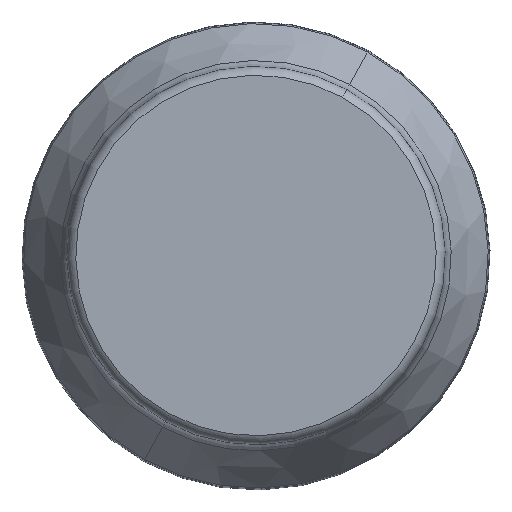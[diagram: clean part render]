
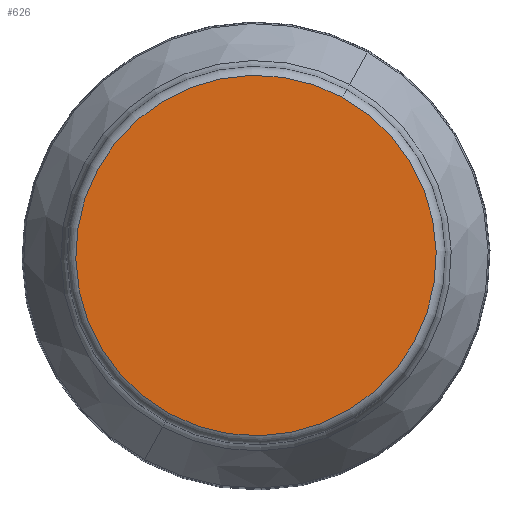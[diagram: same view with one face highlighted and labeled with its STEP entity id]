
A CAD part, top view. The second image highlights one B-rep face of the part: STEP entity #626.
In plain terms, the highlighted planar face has unit normal (0, 0, 1).
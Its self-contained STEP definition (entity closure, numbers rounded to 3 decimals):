
#289=AXIS2_PLACEMENT_3D('Circle Axis2P3D',#287,#288,$) ;
#315=AXIS2_PLACEMENT_3D('Circle Axis2P3D',#313,#314,$) ;
#620=AXIS2_PLACEMENT_3D('Plane Axis2P3D',#617,#618,#619) ;
#284=CARTESIAN_POINT('Vertex',(10.965,20.072,40.)) ;
#287=CARTESIAN_POINT('Axis2P3D Location',(0.,0.,40.)) ;
#291=CARTESIAN_POINT('Vertex',(-10.965,-20.072,40.)) ;
#313=CARTESIAN_POINT('Axis2P3D Location',(0.,0.,40.)) ;
#617=CARTESIAN_POINT('Axis2P3D Location',(0.,22.872,40.)) ;
#288=DIRECTION('Axis2P3D Direction',(0.,0.,-1.)) ;
#314=DIRECTION('Axis2P3D Direction',(0.,0.,-1.)) ;
#618=DIRECTION('Axis2P3D Direction',(0.,0.,-1.)) ;
#619=DIRECTION('Axis2P3D XDirection',(0.,1.,0.)) ;
#623=ORIENTED_EDGE('',*,*,#293,.F.) ;
#624=ORIENTED_EDGE('',*,*,#317,.F.) ;
#626=ADVANCED_FACE('NO_CUT',(#625),#621,.F.) ;
#290=CIRCLE('generated circle',#289,22.872) ;
#316=CIRCLE('generated circle',#315,22.872) ;
#293=EDGE_CURVE('',#285,#292,#290,.T.) ;
#317=EDGE_CURVE('',#292,#285,#316,.T.) ;
#622=EDGE_LOOP('',(#623,#624)) ;
#625=FACE_OUTER_BOUND('',#622,.T.) ;
#621=PLANE('',#620) ;
#285=VERTEX_POINT('',#284) ;
#292=VERTEX_POINT('',#291) ;
